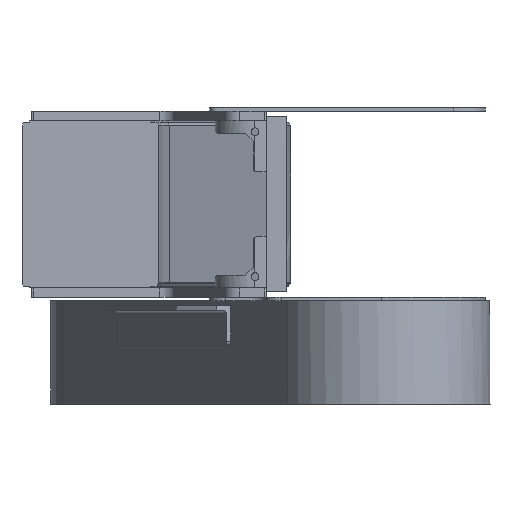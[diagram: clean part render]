
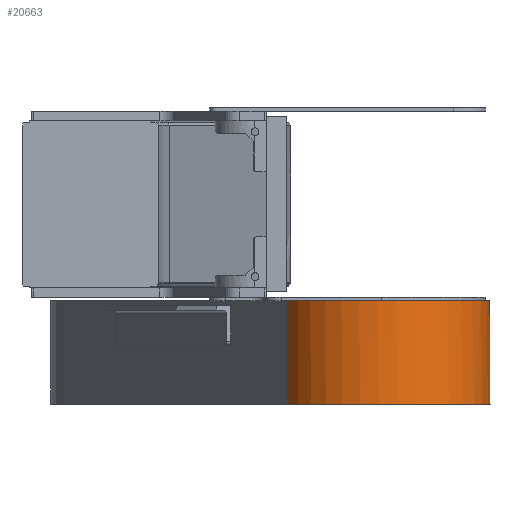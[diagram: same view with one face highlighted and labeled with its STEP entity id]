
A CAD part, left-side view. The second image highlights one B-rep face of the part: STEP entity #20663.
In plain terms, the highlighted cylindrical face has radius 67.5 mm (diameter 135 mm), a partial arc.
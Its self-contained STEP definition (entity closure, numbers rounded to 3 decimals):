
#109 = DIRECTION ( 'NONE',  ( 0., 0., 1. ) ) ;
#203 = DIRECTION ( 'NONE',  ( 0., 0., 1. ) ) ;
#427 = EDGE_CURVE ( 'NONE', #11441, #3440, #2109, .T. ) ;
#1159 = CARTESIAN_POINT ( 'NONE',  ( -232.851, -200.532, -125.5 ) ) ;
#1385 = DIRECTION ( 'NONE',  ( 0., 0., 1. ) ) ;
#1831 = CARTESIAN_POINT ( 'NONE',  ( -264.54, -140.933, -60.5 ) ) ;
#2109 = CIRCLE ( 'NONE', #3999, 67.5 ) ;
#2432 = CARTESIAN_POINT ( 'NONE',  ( -296.23, -81.334, -125.5 ) ) ;
#2496 = DIRECTION ( 'NONE',  ( 1., 0., 0. ) ) ;
#2563 = DIRECTION ( 'NONE',  ( 0., 0., 1. ) ) ;
#2583 = LINE ( 'NONE', #1159, #19876 ) ;
#3440 = VERTEX_POINT ( 'NONE', #20852 ) ;
#3999 = AXIS2_PLACEMENT_3D ( 'NONE', #1831, #203, #8672 ) ;
#4849 = EDGE_CURVE ( 'NONE', #15489, #11441, #17679, .T. ) ;
#4987 = CARTESIAN_POINT ( 'NONE',  ( -264.54, -140.933, -125.5 ) ) ;
#5006 = AXIS2_PLACEMENT_3D ( 'NONE', #4987, #109, #20012 ) ;
#5510 = FACE_OUTER_BOUND ( 'NONE', #19490, .T. ) ;
#5514 = ORIENTED_EDGE ( 'NONE', *, *, #4849, .F. ) ;
#5533 = CARTESIAN_POINT ( 'NONE',  ( -257.714, -208.087, -68. ) ) ;
#5752 = ORIENTED_EDGE ( 'NONE', *, *, #427, .F. ) ;
#6212 = VERTEX_POINT ( 'NONE', #16269 ) ;
#6775 = DIRECTION ( 'NONE',  ( 0., 0., 1. ) ) ;
#6972 = EDGE_CURVE ( 'NONE', #15489, #7441, #21713, .T. ) ;
#7441 = VERTEX_POINT ( 'NONE', #9154 ) ;
#7534 = VECTOR ( 'NONE', #20341, 1000. ) ;
#8564 = EDGE_CURVE ( 'NONE', #6212, #12199, #18436, .T. ) ;
#8672 = DIRECTION ( 'NONE',  ( 1., 0., 0. ) ) ;
#9154 = CARTESIAN_POINT ( 'NONE',  ( -232.851, -200.532, -125.5 ) ) ;
#9238 = CARTESIAN_POINT ( 'NONE',  ( -264.54, -140.933, -125.5 ) ) ;
#9796 = AXIS2_PLACEMENT_3D ( 'NONE', #10076, #6775, #18468 ) ;
#10049 = AXIS2_PLACEMENT_3D ( 'NONE', #9238, #2563, #2496 ) ;
#10076 = CARTESIAN_POINT ( 'NONE',  ( -264.54, -140.933, -68. ) ) ;
#11196 = CARTESIAN_POINT ( 'NONE',  ( -232.851, -200.532, -68. ) ) ;
#11441 = VERTEX_POINT ( 'NONE', #19940 ) ;
#11547 = VECTOR ( 'NONE', #19515, 1000. ) ;
#12034 = EDGE_CURVE ( 'NONE', #6212, #3440, #15967, .T. ) ;
#12199 = VERTEX_POINT ( 'NONE', #11196 ) ;
#13589 = CYLINDRICAL_SURFACE ( 'NONE', #5006, 67.5 ) ;
#15240 = ORIENTED_EDGE ( 'NONE', *, *, #6972, .T. ) ;
#15349 = ORIENTED_EDGE ( 'NONE', *, *, #8564, .F. ) ;
#15489 = VERTEX_POINT ( 'NONE', #2432 ) ;
#15967 = LINE ( 'NONE', #5533, #11547 ) ;
#16269 = CARTESIAN_POINT ( 'NONE',  ( -257.714, -208.087, -68. ) ) ;
#17120 = CARTESIAN_POINT ( 'NONE',  ( -296.23, -81.334, -125.5 ) ) ;
#17679 = LINE ( 'NONE', #17120, #7534 ) ;
#18423 = ORIENTED_EDGE ( 'NONE', *, *, #12034, .T. ) ;
#18436 = CIRCLE ( 'NONE', #9796, 67.5 ) ;
#18468 = DIRECTION ( 'NONE',  ( 1., 0., 0. ) ) ;
#19139 = ORIENTED_EDGE ( 'NONE', *, *, #21623, .T. ) ;
#19490 = EDGE_LOOP ( 'NONE', ( #18423, #5752, #5514, #15240, #19139, #15349 ) ) ;
#19515 = DIRECTION ( 'NONE',  ( 0., 0., 1. ) ) ;
#19876 = VECTOR ( 'NONE', #1385, 1000. ) ;
#19940 = CARTESIAN_POINT ( 'NONE',  ( -296.23, -81.334, -60.5 ) ) ;
#20012 = DIRECTION ( 'NONE',  ( 1., 0., 0. ) ) ;
#20341 = DIRECTION ( 'NONE',  ( 0., 0., 1. ) ) ;
#20663 = ADVANCED_FACE ( 'NONE', ( #5510 ), #13589, .T. ) ;
#20852 = CARTESIAN_POINT ( 'NONE',  ( -257.714, -208.087, -60.5 ) ) ;
#21623 = EDGE_CURVE ( 'NONE', #7441, #12199, #2583, .T. ) ;
#21713 = CIRCLE ( 'NONE', #10049, 67.5 ) ;
